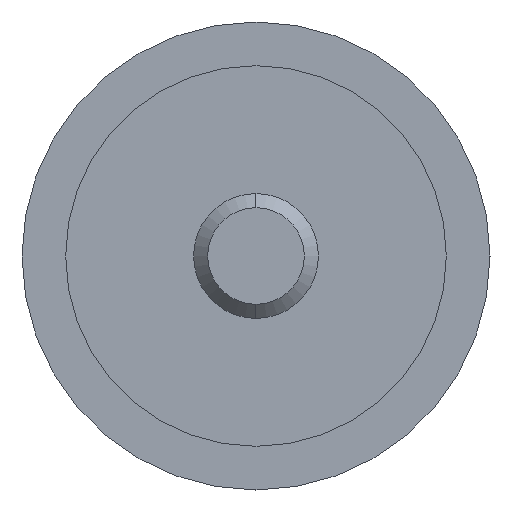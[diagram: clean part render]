
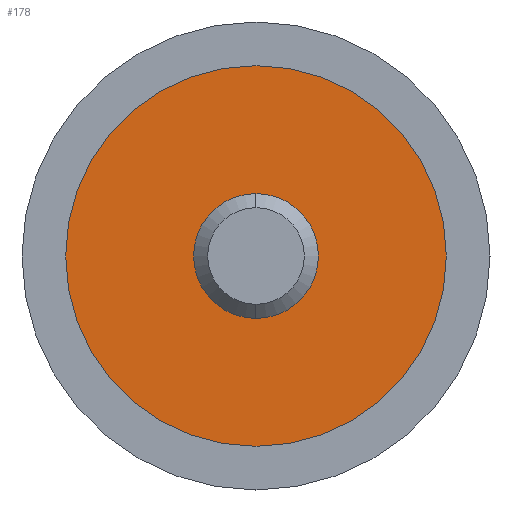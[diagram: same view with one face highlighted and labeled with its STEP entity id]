
A CAD part, left-side view. The second image highlights one B-rep face of the part: STEP entity #178.
In plain terms, the highlighted planar face has unit normal (-1, 0, 0).
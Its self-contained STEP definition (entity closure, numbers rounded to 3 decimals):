
#26 = DIRECTION ( 'NONE',  ( 0., 0., -1. ) ) ;
#28 = EDGE_CURVE ( 'NONE', #372, #345, #570, .T. ) ;
#34 = DIRECTION ( 'NONE',  ( 0., 0., -1. ) ) ;
#58 = CARTESIAN_POINT ( 'NONE',  ( -7.49, 0., 2. ) ) ;
#63 = ORIENTED_EDGE ( 'NONE', *, *, #665, .T. ) ;
#74 = DIRECTION ( 'NONE',  ( -1., 0., 0. ) ) ;
#87 = FACE_OUTER_BOUND ( 'NONE', #105, .T. ) ;
#105 = EDGE_LOOP ( 'NONE', ( #219, #63 ) ) ;
#129 = EDGE_CURVE ( 'NONE', #175, #339, #134, .T. ) ;
#132 = DIRECTION ( 'NONE',  ( -1., 0., 0. ) ) ;
#134 = CIRCLE ( 'NONE', #286, 2. ) ;
#157 = EDGE_LOOP ( 'NONE', ( #593, #254 ) ) ;
#174 = CARTESIAN_POINT ( 'NONE',  ( -7.49, 0., 6.1 ) ) ;
#175 = VERTEX_POINT ( 'NONE', #609 ) ;
#178 = ADVANCED_FACE ( 'NONE', ( #87, #465 ), #190, .F. ) ;
#190 = PLANE ( 'NONE',  #539 ) ;
#219 = ORIENTED_EDGE ( 'NONE', *, *, #28, .T. ) ;
#254 = ORIENTED_EDGE ( 'NONE', *, *, #129, .F. ) ;
#286 = AXIS2_PLACEMENT_3D ( 'NONE', #355, #662, #34 ) ;
#290 = DIRECTION ( 'NONE',  ( 0., 0., 1. ) ) ;
#295 = DIRECTION ( 'NONE',  ( 0., 0., 1. ) ) ;
#305 = CARTESIAN_POINT ( 'NONE',  ( -7.49, 6.1, 0. ) ) ;
#323 = CIRCLE ( 'NONE', #595, 2. ) ;
#330 = CIRCLE ( 'NONE', #648, 6.1 ) ;
#339 = VERTEX_POINT ( 'NONE', #58 ) ;
#345 = VERTEX_POINT ( 'NONE', #637 ) ;
#355 = CARTESIAN_POINT ( 'NONE',  ( -7.49, 0., 0. ) ) ;
#372 = VERTEX_POINT ( 'NONE', #174 ) ;
#378 = CARTESIAN_POINT ( 'NONE',  ( -7.49, 0., 0. ) ) ;
#383 = DIRECTION ( 'NONE',  ( -1., 0., 0. ) ) ;
#430 = EDGE_CURVE ( 'NONE', #339, #175, #323, .T. ) ;
#465 = FACE_BOUND ( 'NONE', #157, .T. ) ;
#488 = AXIS2_PLACEMENT_3D ( 'NONE', #548, #74, #295 ) ;
#539 = AXIS2_PLACEMENT_3D ( 'NONE', #305, #562, #603 ) ;
#548 = CARTESIAN_POINT ( 'NONE',  ( -7.49, 0., 0. ) ) ;
#562 = DIRECTION ( 'NONE',  ( 1., 0., 0. ) ) ;
#570 = CIRCLE ( 'NONE', #488, 6.1 ) ;
#593 = ORIENTED_EDGE ( 'NONE', *, *, #430, .F. ) ;
#595 = AXIS2_PLACEMENT_3D ( 'NONE', #602, #132, #26 ) ;
#602 = CARTESIAN_POINT ( 'NONE',  ( -7.49, 0., 0. ) ) ;
#603 = DIRECTION ( 'NONE',  ( 0., 0., -1. ) ) ;
#609 = CARTESIAN_POINT ( 'NONE',  ( -7.49, 0., -2. ) ) ;
#637 = CARTESIAN_POINT ( 'NONE',  ( -7.49, 0., -6.1 ) ) ;
#648 = AXIS2_PLACEMENT_3D ( 'NONE', #378, #383, #290 ) ;
#662 = DIRECTION ( 'NONE',  ( -1., 0., 0. ) ) ;
#665 = EDGE_CURVE ( 'NONE', #345, #372, #330, .T. ) ;
